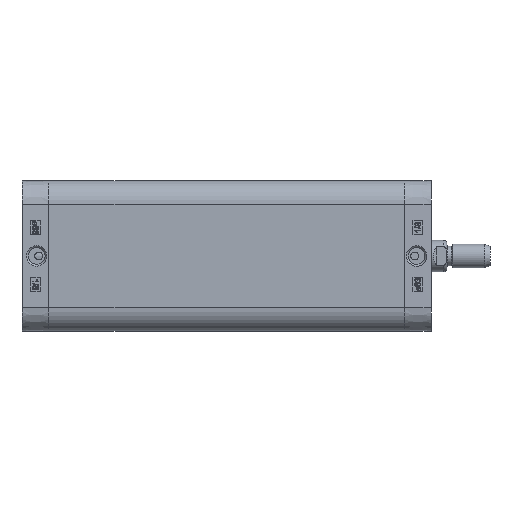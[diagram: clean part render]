
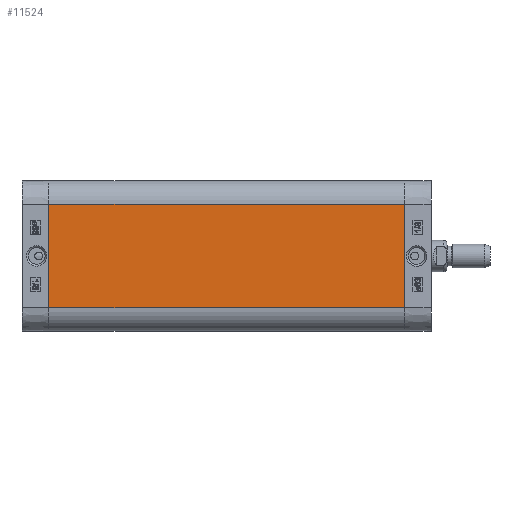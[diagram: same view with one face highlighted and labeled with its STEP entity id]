
A CAD part, left-side view. The second image highlights one B-rep face of the part: STEP entity #11524.
In plain terms, the highlighted planar face has unit normal (-1, 0, 0).
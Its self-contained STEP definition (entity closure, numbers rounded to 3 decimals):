
#5854=CARTESIAN_POINT('',(-38.5,-181.5,26.5));
#5855=VERTEX_POINT('',#5854);
#5862=CARTESIAN_POINT('',(-38.5,-181.5,-26.5));
#5863=VERTEX_POINT('',#5862);
#5864=CARTESIAN_POINT('',(-38.5,-181.5,-26.5));
#5865=DIRECTION('',(0.0,0.0,1.0));
#5866=VECTOR('',#5865,53.0);
#5867=LINE('',#5864,#5866);
#5868=EDGE_CURVE('',#5863,#5855,#5867,.T.);
#11482=CARTESIAN_POINT('',(-38.5,0.0,-26.5));
#11483=VERTEX_POINT('',#11482);
#11484=CARTESIAN_POINT('',(-38.5,0.0,-26.5));
#11485=DIRECTION('',(0.0,-1.0,0.0));
#11486=VECTOR('',#11485,181.5);
#11487=LINE('',#11484,#11486);
#11488=EDGE_CURVE('',#11483,#5863,#11487,.T.);
#11501=CARTESIAN_POINT('',(-38.5,0.0,-26.5));
#11502=DIRECTION('',(-1.0,0.0,0.0));
#11503=DIRECTION('',(0.0,0.0,1.0));
#11504=AXIS2_PLACEMENT_3D('',#11501,#11502,#11503);
#11505=PLANE('',#11504);
#11506=ORIENTED_EDGE('',*,*,#5868,.T.);
#11507=CARTESIAN_POINT('',(-38.5,0.0,26.5));
#11508=VERTEX_POINT('',#11507);
#11509=CARTESIAN_POINT('',(-38.5,0.0,26.5));
#11510=DIRECTION('',(0.0,-1.0,0.0));
#11511=VECTOR('',#11510,181.5);
#11512=LINE('',#11509,#11511);
#11513=EDGE_CURVE('',#11508,#5855,#11512,.T.);
#11514=ORIENTED_EDGE('',*,*,#11513,.F.);
#11515=CARTESIAN_POINT('',(-38.5,0.0,-26.5));
#11516=DIRECTION('',(0.0,0.0,1.0));
#11517=VECTOR('',#11516,53.0);
#11518=LINE('',#11515,#11517);
#11519=EDGE_CURVE('',#11483,#11508,#11518,.T.);
#11520=ORIENTED_EDGE('',*,*,#11519,.F.);
#11521=ORIENTED_EDGE('',*,*,#11488,.T.);
#11522=EDGE_LOOP('',(#11506,#11514,#11520,#11521));
#11523=FACE_OUTER_BOUND('',#11522,.T.);
#11524=ADVANCED_FACE('',(#11523),#11505,.T.);
